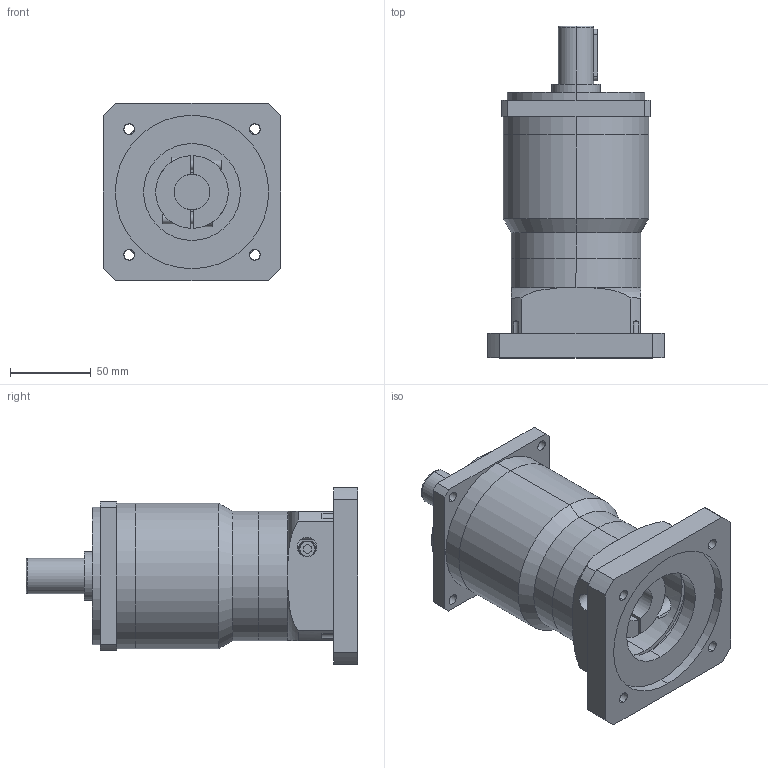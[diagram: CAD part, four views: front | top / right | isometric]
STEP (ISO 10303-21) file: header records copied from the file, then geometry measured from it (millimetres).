
FILE_DESCRIPTION (( 'STEP AP203' ), '1' );
FILE_NAME ('WPF090陔-L2俋倛芞(22-56-95-115-M8)蟀諉啣.STEP', '2018-09-07T02:23:52', ( 'wanshsin' ), ( 'Microsoft' ), 'SwSTEP 2.0', 'SolidWorks 2016', '' );
FILE_SCHEMA (( 'CONFIG_CONTROL_DESIGN' ));
Length unit declared in the file: millimetre
Products named in the file (1): WPF090新-L2外形图(22-56-95-115-M8)连接板
Bounding box: 110 x 205.5 x 110 mm (x, y, z)
Volume: 953278.1 mm3; surface area: 127318.5 mm2
Topology: 4 solids, 8 shells, 194 faces, 462 edges, 291 vertices
Faces by surface type: cylinder 94, plane 70, cone 20, torus 10
Entity records: 6331 total; most frequent: CARTESIAN_POINT 1618, DIRECTION 1034, ORIENTED_EDGE 904, EDGE_CURVE 452, AXIS2_PLACEMENT_3D 411, VERTEX_POINT 291, EDGE_LOOP 237, CIRCLE 216
